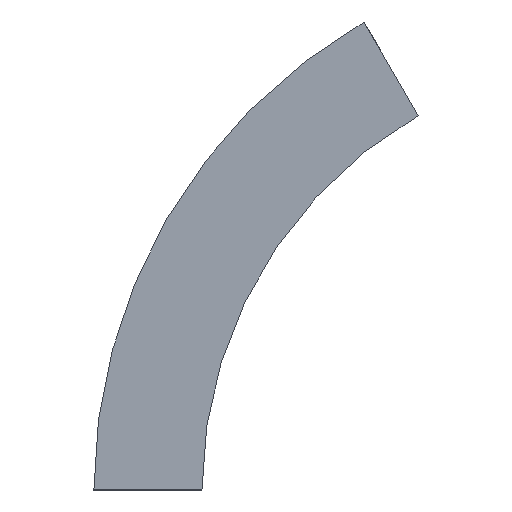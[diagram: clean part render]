
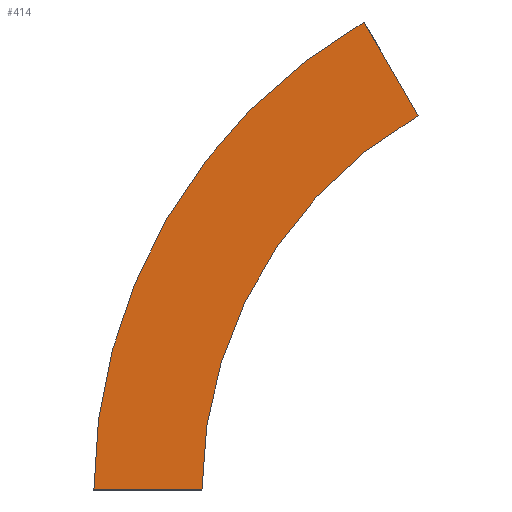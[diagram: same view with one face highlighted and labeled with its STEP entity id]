
A CAD part, left-side view. The second image highlights one B-rep face of the part: STEP entity #414.
In plain terms, the highlighted planar face has unit normal (-1, 0, 0) as drawn and (1, 0, 0) by its records, which use the part's own axes.
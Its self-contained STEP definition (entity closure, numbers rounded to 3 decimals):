
#7 = EDGE_CURVE ( 'NONE', #486, #165, #170, .T. ) ;
#13 = DIRECTION ( 'NONE',  ( 0., 0., -1. ) ) ;
#31 = CARTESIAN_POINT ( 'NONE',  ( 0., -300., 0. ) ) ;
#36 = CARTESIAN_POINT ( 'NONE',  ( 0., -150., 259.808 ) ) ;
#70 = DIRECTION ( 'NONE',  ( 0., 0.5, 0.866 ) ) ;
#99 = AXIS2_PLACEMENT_3D ( 'NONE', #514, #434, #13 ) ;
#116 = CARTESIAN_POINT ( 'NONE',  ( 0., 75., 0. ) ) ;
#135 = EDGE_CURVE ( 'NONE', #145, #486, #259, .T. ) ;
#145 = VERTEX_POINT ( 'NONE', #186 ) ;
#156 = CARTESIAN_POINT ( 'NONE',  ( 0., -112.5, 324.76 ) ) ;
#165 = VERTEX_POINT ( 'NONE', #156 ) ;
#170 = CIRCLE ( 'NONE', #410, 375. ) ;
#186 = CARTESIAN_POINT ( 'NONE',  ( 0., 0., 0. ) ) ;
#193 = PLANE ( 'NONE',  #99 ) ;
#194 = ORIENTED_EDGE ( 'NONE', *, *, #135, .T. ) ;
#198 = EDGE_CURVE ( 'NONE', #509, #165, #391, .T. ) ;
#205 = EDGE_CURVE ( 'NONE', #145, #509, #224, .T. ) ;
#221 = DIRECTION ( 'NONE',  ( 1., 0., 0. ) ) ;
#224 = CIRCLE ( 'NONE', #250, 300. ) ;
#241 = DIRECTION ( 'NONE',  ( 0., 1., 0. ) ) ;
#242 = EDGE_LOOP ( 'NONE', ( #512, #393, #430, #194 ) ) ;
#250 = AXIS2_PLACEMENT_3D ( 'NONE', #251, #440, #364 ) ;
#251 = CARTESIAN_POINT ( 'NONE',  ( 0., -300., 0. ) ) ;
#259 = LINE ( 'NONE', #561, #358 ) ;
#353 = CARTESIAN_POINT ( 'NONE',  ( 0., -150., 259.808 ) ) ;
#358 = VECTOR ( 'NONE', #241, 1000. ) ;
#364 = DIRECTION ( 'NONE',  ( 0., 1., 0. ) ) ;
#391 = LINE ( 'NONE', #353, #407 ) ;
#393 = ORIENTED_EDGE ( 'NONE', *, *, #198, .F. ) ;
#407 = VECTOR ( 'NONE', #70, 1000. ) ;
#410 = AXIS2_PLACEMENT_3D ( 'NONE', #31, #221, #413 ) ;
#413 = DIRECTION ( 'NONE',  ( 0., 1., 0. ) ) ;
#414 = ADVANCED_FACE ( 'NONE', ( #548 ), #193, .T. ) ;
#430 = ORIENTED_EDGE ( 'NONE', *, *, #205, .F. ) ;
#434 = DIRECTION ( 'NONE',  ( 1., 0., 0. ) ) ;
#440 = DIRECTION ( 'NONE',  ( 1., 0., 0. ) ) ;
#486 = VERTEX_POINT ( 'NONE', #116 ) ;
#509 = VERTEX_POINT ( 'NONE', #36 ) ;
#512 = ORIENTED_EDGE ( 'NONE', *, *, #7, .T. ) ;
#514 = CARTESIAN_POINT ( 'NONE',  ( 0., 0., 0. ) ) ;
#548 = FACE_OUTER_BOUND ( 'NONE', #242, .T. ) ;
#561 = CARTESIAN_POINT ( 'NONE',  ( 0., 0., 0. ) ) ;
